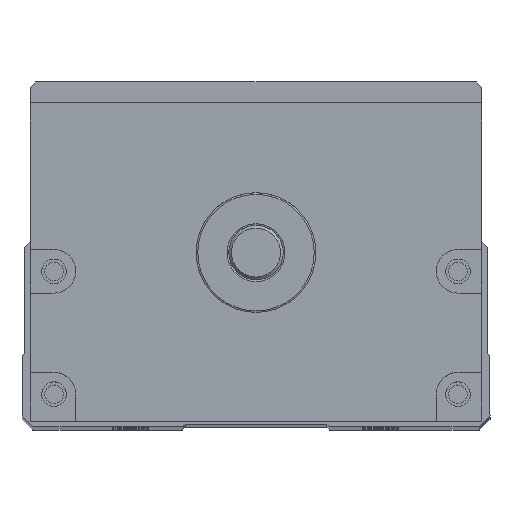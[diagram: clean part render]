
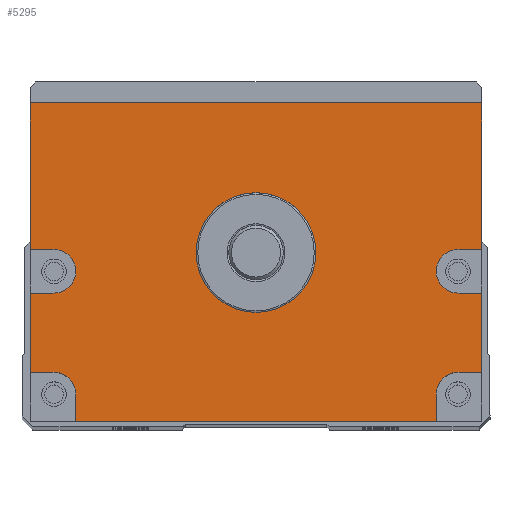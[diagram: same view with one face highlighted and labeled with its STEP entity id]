
A CAD part, top view. The second image highlights one B-rep face of the part: STEP entity #5295.
In plain terms, the highlighted planar face has unit normal (0, 0, 1).
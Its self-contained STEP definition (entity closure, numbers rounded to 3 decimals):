
#504=LINE('',#25782,#1202);
#506=LINE('',#25790,#1204);
#507=LINE('',#25793,#1205);
#508=LINE('',#25795,#1206);
#509=LINE('',#25799,#1207);
#510=LINE('',#25801,#1208);
#511=LINE('',#25802,#1209);
#512=LINE('',#25804,#1210);
#513=LINE('',#25808,#1211);
#514=LINE('',#25810,#1212);
#515=LINE('',#25812,#1213);
#516=LINE('',#25816,#1214);
#517=LINE('',#25818,#1215);
#518=LINE('',#25820,#1216);
#1202=VECTOR('',#14372,1.);
#1204=VECTOR('',#14380,1.);
#1205=VECTOR('',#14381,1.);
#1206=VECTOR('',#14382,1.);
#1207=VECTOR('',#14385,1.);
#1208=VECTOR('',#14386,1.);
#1209=VECTOR('',#14387,1.);
#1210=VECTOR('',#14388,1.);
#1211=VECTOR('',#14391,1.);
#1212=VECTOR('',#14392,1.);
#1213=VECTOR('',#14393,1.);
#1214=VECTOR('',#14396,1.);
#1215=VECTOR('',#14397,1.);
#1216=VECTOR('',#14398,1.);
#5295=ADVANCED_FACE('',(#6144,#6145),#5746,.T.);
#5746=PLANE('',#12905);
#6144=FACE_BOUND('',#6696,.T.);
#6145=FACE_BOUND('',#6697,.T.);
#6696=EDGE_LOOP('',(#8135,#8136,#8137,#8138,#8139,#8140,#8141,#8142,#8143,
#8144,#8145,#8146,#8147,#8148,#8149,#8150,#8151,#8152));
#6697=EDGE_LOOP('',(#8153));
#8135=ORIENTED_EDGE('',*,*,#11301,.F.);
#8136=ORIENTED_EDGE('',*,*,#11302,.T.);
#8137=ORIENTED_EDGE('',*,*,#11303,.F.);
#8138=ORIENTED_EDGE('',*,*,#11304,.F.);
#8139=ORIENTED_EDGE('',*,*,#11305,.F.);
#8140=ORIENTED_EDGE('',*,*,#11306,.T.);
#8141=ORIENTED_EDGE('',*,*,#11297,.T.);
#8142=ORIENTED_EDGE('',*,*,#11307,.T.);
#8143=ORIENTED_EDGE('',*,*,#11308,.F.);
#8144=ORIENTED_EDGE('',*,*,#11309,.F.);
#8145=ORIENTED_EDGE('',*,*,#11310,.F.);
#8146=ORIENTED_EDGE('',*,*,#11311,.T.);
#8147=ORIENTED_EDGE('',*,*,#11312,.F.);
#8148=ORIENTED_EDGE('',*,*,#11313,.F.);
#8149=ORIENTED_EDGE('',*,*,#11314,.F.);
#8150=ORIENTED_EDGE('',*,*,#11315,.T.);
#8151=ORIENTED_EDGE('',*,*,#11316,.F.);
#8152=ORIENTED_EDGE('',*,*,#11317,.F.);
#8153=ORIENTED_EDGE('',*,*,#11283,.T.);
#10204=VERTEX_POINT('',#25753);
#10217=VERTEX_POINT('',#25781);
#10218=VERTEX_POINT('',#25783);
#10221=VERTEX_POINT('',#25791);
#10222=VERTEX_POINT('',#25792);
#10223=VERTEX_POINT('',#25794);
#10224=VERTEX_POINT('',#25796);
#10225=VERTEX_POINT('',#25798);
#10226=VERTEX_POINT('',#25800);
#10227=VERTEX_POINT('',#25803);
#10228=VERTEX_POINT('',#25805);
#10229=VERTEX_POINT('',#25807);
#10230=VERTEX_POINT('',#25809);
#10231=VERTEX_POINT('',#25811);
#10232=VERTEX_POINT('',#25813);
#10233=VERTEX_POINT('',#25815);
#10234=VERTEX_POINT('',#25817);
#10235=VERTEX_POINT('',#25819);
#10236=VERTEX_POINT('',#25821);
#11283=EDGE_CURVE('',#10204,#10204,#12308,.T.);
#11297=EDGE_CURVE('',#10218,#10217,#504,.T.);
#11301=EDGE_CURVE('',#10221,#10222,#506,.T.);
#11302=EDGE_CURVE('',#10221,#10223,#507,.T.);
#11303=EDGE_CURVE('',#10224,#10223,#508,.T.);
#11304=EDGE_CURVE('',#10225,#10224,#12319,.T.);
#11305=EDGE_CURVE('',#10226,#10225,#509,.T.);
#11306=EDGE_CURVE('',#10226,#10218,#510,.T.);
#11307=EDGE_CURVE('',#10217,#10227,#511,.T.);
#11308=EDGE_CURVE('',#10228,#10227,#512,.T.);
#11309=EDGE_CURVE('',#10229,#10228,#12320,.T.);
#11310=EDGE_CURVE('',#10230,#10229,#513,.T.);
#11311=EDGE_CURVE('',#10230,#10231,#514,.T.);
#11312=EDGE_CURVE('',#10232,#10231,#515,.T.);
#11313=EDGE_CURVE('',#10233,#10232,#12321,.T.);
#11314=EDGE_CURVE('',#10234,#10233,#516,.T.);
#11315=EDGE_CURVE('',#10234,#10235,#517,.T.);
#11316=EDGE_CURVE('',#10236,#10235,#518,.T.);
#11317=EDGE_CURVE('',#10222,#10236,#12322,.T.);
#12308=CIRCLE('',#12887,11.);
#12319=CIRCLE('',#12901,4.);
#12320=CIRCLE('',#12902,4.);
#12321=CIRCLE('',#12903,4.);
#12322=CIRCLE('',#12904,4.);
#12887=AXIS2_PLACEMENT_3D('',#25752,#14345,#14346);
#12901=AXIS2_PLACEMENT_3D('',#25797,#14383,#14384);
#12902=AXIS2_PLACEMENT_3D('',#25806,#14389,#14390);
#12903=AXIS2_PLACEMENT_3D('',#25814,#14394,#14395);
#12904=AXIS2_PLACEMENT_3D('',#25822,#14399,#14400);
#12905=AXIS2_PLACEMENT_3D('',#25823,#14401,#14402);
#14345=DIRECTION('',(0.,0.,-1.));
#14346=DIRECTION('',(1.,0.,0.));
#14372=DIRECTION('',(-1.,0.,0.));
#14380=DIRECTION('',(-1.,0.,0.));
#14381=DIRECTION('',(0.,1.,0.));
#14382=DIRECTION('',(1.,0.,0.));
#14383=DIRECTION('',(0.,0.,1.));
#14384=DIRECTION('',(1.,0.,0.));
#14385=DIRECTION('',(-1.,0.,0.));
#14386=DIRECTION('',(0.,1.,0.));
#14387=DIRECTION('',(0.,-1.,0.));
#14388=DIRECTION('',(-1.,0.,0.));
#14389=DIRECTION('',(0.,0.,1.));
#14390=DIRECTION('',(1.,0.,0.));
#14391=DIRECTION('',(1.,0.,0.));
#14392=DIRECTION('',(0.,-1.,0.));
#14393=DIRECTION('',(-1.,0.,0.));
#14394=DIRECTION('',(0.,0.,1.));
#14395=DIRECTION('',(1.,0.,0.));
#14396=DIRECTION('',(0.,1.,0.));
#14397=DIRECTION('',(1.,0.,0.));
#14398=DIRECTION('',(0.,-1.,0.));
#14399=DIRECTION('',(0.,0.,1.));
#14400=DIRECTION('',(1.,0.,0.));
#14401=DIRECTION('',(0.,0.,1.));
#14402=DIRECTION('',(1.,0.,0.));
#25752=CARTESIAN_POINT('',(750.,0.,182.5));
#25753=CARTESIAN_POINT('',(761.,0.,182.5));
#25781=CARTESIAN_POINT('',(708.5,27.5,182.5));
#25782=CARTESIAN_POINT('',(791.5,27.5,182.5));
#25783=CARTESIAN_POINT('',(791.5,27.5,182.5));
#25790=CARTESIAN_POINT('',(791.5,-22.,182.5));
#25791=CARTESIAN_POINT('',(791.5,-22.,182.5));
#25792=CARTESIAN_POINT('',(787.115,-22.,182.5));
#25793=CARTESIAN_POINT('',(791.5,-31.,182.5));
#25794=CARTESIAN_POINT('',(791.5,-7.431,182.5));
#25795=CARTESIAN_POINT('',(791.5,-7.431,182.5));
#25796=CARTESIAN_POINT('',(787.115,-7.431,182.5));
#25797=CARTESIAN_POINT('',(787.115,-3.431,182.5));
#25798=CARTESIAN_POINT('',(787.115,0.569,182.5));
#25799=CARTESIAN_POINT('',(791.5,0.569,182.5));
#25800=CARTESIAN_POINT('',(791.5,0.569,182.5));
#25801=CARTESIAN_POINT('',(791.5,-31.,182.5));
#25802=CARTESIAN_POINT('',(708.5,27.5,182.5));
#25803=CARTESIAN_POINT('',(708.5,0.569,182.5));
#25804=CARTESIAN_POINT('',(791.5,0.569,182.5));
#25805=CARTESIAN_POINT('',(712.885,0.569,182.5));
#25806=CARTESIAN_POINT('',(712.885,-3.431,182.5));
#25807=CARTESIAN_POINT('',(712.885,-7.431,182.5));
#25808=CARTESIAN_POINT('',(791.5,-7.431,182.5));
#25809=CARTESIAN_POINT('',(708.5,-7.431,182.5));
#25810=CARTESIAN_POINT('',(708.5,27.5,182.5));
#25811=CARTESIAN_POINT('',(708.5,-22.,182.5));
#25812=CARTESIAN_POINT('',(791.5,-22.,182.5));
#25813=CARTESIAN_POINT('',(712.885,-22.,182.5));
#25814=CARTESIAN_POINT('',(712.885,-26.,182.5));
#25815=CARTESIAN_POINT('',(716.885,-26.,182.5));
#25816=CARTESIAN_POINT('',(716.885,-31.,182.5));
#25817=CARTESIAN_POINT('',(716.885,-31.,182.5));
#25818=CARTESIAN_POINT('',(708.5,-31.,182.5));
#25819=CARTESIAN_POINT('',(783.115,-31.,182.5));
#25820=CARTESIAN_POINT('',(783.115,-31.,182.5));
#25821=CARTESIAN_POINT('',(783.115,-26.,182.5));
#25822=CARTESIAN_POINT('',(787.115,-26.,182.5));
#25823=CARTESIAN_POINT('',(791.5,-31.,182.5));
